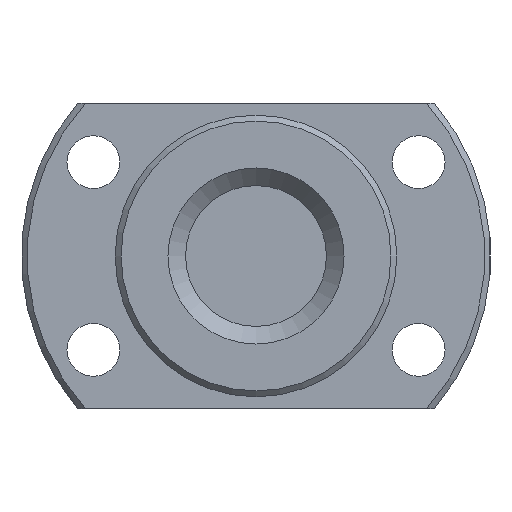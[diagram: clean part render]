
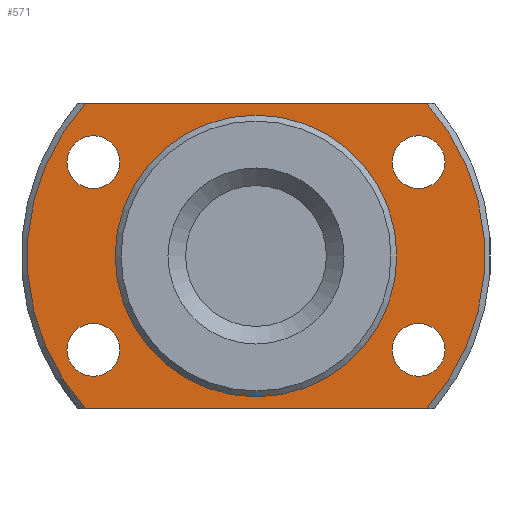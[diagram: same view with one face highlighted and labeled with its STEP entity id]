
A CAD part, left-side view. The second image highlights one B-rep face of the part: STEP entity #571.
In plain terms, the highlighted planar face has unit normal (-1, 0, 0) as drawn and (1, 0, 0) by its records, which use the part's own axes.
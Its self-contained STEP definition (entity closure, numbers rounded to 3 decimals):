
#83=CIRCLE('',#661,2.25);
#84=CIRCLE('',#662,2.25);
#85=CIRCLE('',#663,2.25);
#86=CIRCLE('',#664,2.25);
#87=CIRCLE('',#665,11.85);
#88=CIRCLE('',#666,19.5);
#89=CIRCLE('',#667,19.5);
#161=ORIENTED_EDGE('',*,*,#270,.T.);
#162=ORIENTED_EDGE('',*,*,#271,.T.);
#163=ORIENTED_EDGE('',*,*,#272,.T.);
#164=ORIENTED_EDGE('',*,*,#273,.T.);
#165=ORIENTED_EDGE('',*,*,#274,.F.);
#166=ORIENTED_EDGE('',*,*,#275,.T.);
#167=ORIENTED_EDGE('',*,*,#276,.T.);
#168=ORIENTED_EDGE('',*,*,#277,.T.);
#169=ORIENTED_EDGE('',*,*,#278,.T.);
#270=EDGE_CURVE('',#331,#331,#83,.F.);
#271=EDGE_CURVE('',#332,#332,#84,.F.);
#272=EDGE_CURVE('',#333,#333,#85,.F.);
#273=EDGE_CURVE('',#334,#334,#86,.F.);
#274=EDGE_CURVE('',#335,#335,#87,.T.);
#275=EDGE_CURVE('',#336,#337,#88,.T.);
#276=EDGE_CURVE('',#337,#338,#368,.T.);
#277=EDGE_CURVE('',#338,#339,#89,.T.);
#278=EDGE_CURVE('',#339,#336,#369,.T.);
#331=VERTEX_POINT('',#972);
#332=VERTEX_POINT('',#974);
#333=VERTEX_POINT('',#976);
#334=VERTEX_POINT('',#978);
#335=VERTEX_POINT('',#980);
#336=VERTEX_POINT('',#982);
#337=VERTEX_POINT('',#983);
#338=VERTEX_POINT('',#985);
#339=VERTEX_POINT('',#987);
#368=LINE('',#984,#386);
#369=LINE('',#988,#387);
#386=VECTOR('',#812,1000.);
#387=VECTOR('',#815,1000.);
#424=EDGE_LOOP('',(#161));
#425=EDGE_LOOP('',(#162));
#426=EDGE_LOOP('',(#163));
#427=EDGE_LOOP('',(#164));
#428=EDGE_LOOP('',(#165));
#429=EDGE_LOOP('',(#166,#167,#168,#169));
#496=FACE_BOUND('',#424,.T.);
#497=FACE_BOUND('',#425,.T.);
#498=FACE_BOUND('',#426,.T.);
#499=FACE_BOUND('',#427,.T.);
#500=FACE_BOUND('',#428,.T.);
#501=FACE_BOUND('',#429,.T.);
#547=PLANE('',#660);
#571=ADVANCED_FACE('',(#496,#497,#498,#499,#500,#501),#547,.T.);
#660=AXIS2_PLACEMENT_3D('',#970,#798,#799);
#661=AXIS2_PLACEMENT_3D('',#971,#800,#801);
#662=AXIS2_PLACEMENT_3D('',#973,#802,#803);
#663=AXIS2_PLACEMENT_3D('',#975,#804,#805);
#664=AXIS2_PLACEMENT_3D('',#977,#806,#807);
#665=AXIS2_PLACEMENT_3D('',#979,#808,#809);
#666=AXIS2_PLACEMENT_3D('',#981,#810,#811);
#667=AXIS2_PLACEMENT_3D('',#986,#813,#814);
#798=DIRECTION('',(1.,0.,0.));
#799=DIRECTION('',(0.,0.,-1.));
#800=DIRECTION('',(1.,0.,0.));
#801=DIRECTION('',(0.,0.,-1.));
#802=DIRECTION('',(1.,0.,0.));
#803=DIRECTION('',(0.,0.,-1.));
#804=DIRECTION('',(1.,0.,0.));
#805=DIRECTION('',(0.,0.,-1.));
#806=DIRECTION('',(1.,0.,0.));
#807=DIRECTION('',(0.,0.,-1.));
#808=DIRECTION('',(1.,0.,0.));
#809=DIRECTION('',(0.,0.,-1.));
#810=DIRECTION('',(1.,0.,0.));
#811=DIRECTION('',(0.,0.,-1.));
#812=DIRECTION('',(0.,-1.,0.));
#813=DIRECTION('',(1.,0.,0.));
#814=DIRECTION('',(0.,0.,-1.));
#815=DIRECTION('',(0.,1.,0.));
#970=CARTESIAN_POINT('',(8.,11.85,0.));
#971=CARTESIAN_POINT('',(8.,13.856,8.));
#972=CARTESIAN_POINT('',(8.,13.856,5.75));
#973=CARTESIAN_POINT('',(8.,-13.856,-8.));
#974=CARTESIAN_POINT('',(8.,-13.856,-10.25));
#975=CARTESIAN_POINT('',(8.,-13.856,8.));
#976=CARTESIAN_POINT('',(8.,-13.856,5.75));
#977=CARTESIAN_POINT('',(8.,13.856,-8.));
#978=CARTESIAN_POINT('',(8.,13.856,-10.25));
#979=CARTESIAN_POINT('',(8.,0.,0.));
#980=CARTESIAN_POINT('',(8.,0.,-11.85));
#981=CARTESIAN_POINT('',(8.,0.,0.));
#982=CARTESIAN_POINT('',(8.,14.534,-13.));
#983=CARTESIAN_POINT('',(8.,14.534,13.));
#984=CARTESIAN_POINT('',(8.,11.85,13.));
#985=CARTESIAN_POINT('',(8.,-14.534,13.));
#986=CARTESIAN_POINT('',(8.,0.,0.));
#987=CARTESIAN_POINT('',(8.,-14.534,-13.));
#988=CARTESIAN_POINT('',(8.,11.85,-13.));
